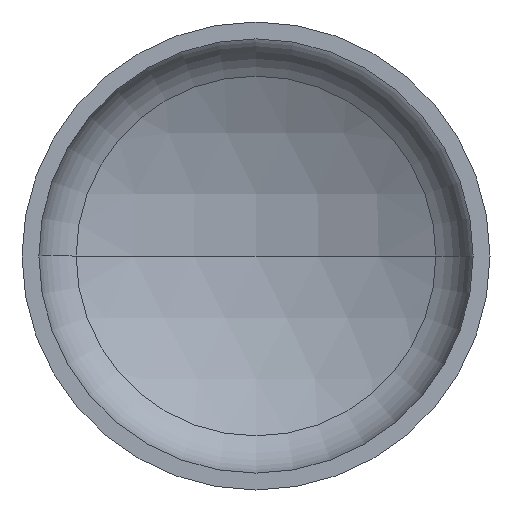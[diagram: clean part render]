
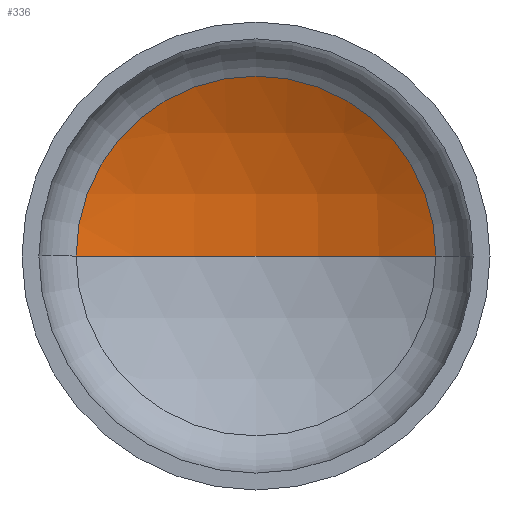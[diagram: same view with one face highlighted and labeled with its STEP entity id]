
A CAD part, front view. The second image highlights one B-rep face of the part: STEP entity #336.
In plain terms, the highlighted spherical face has radius 2400 mm.
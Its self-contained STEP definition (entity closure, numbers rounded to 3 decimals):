
#7 = AXIS2_PLACEMENT_3D ( 'NONE', #163, #395, #357 ) ;
#16 = EDGE_LOOP ( 'NONE', ( #131, #114, #58 ) ) ;
#29 = AXIS2_PLACEMENT_3D ( 'NONE', #375, #42, #31 ) ;
#31 = DIRECTION ( 'NONE',  ( 1., 0., 0. ) ) ;
#33 = VERTEX_POINT ( 'NONE', #354 ) ;
#34 = AXIS2_PLACEMENT_3D ( 'NONE', #223, #385, #244 ) ;
#36 = AXIS2_PLACEMENT_3D ( 'NONE', #212, #206, #204 ) ;
#42 = DIRECTION ( 'NONE',  ( 0., 0., 1. ) ) ;
#58 = ORIENTED_EDGE ( 'NONE', *, *, #75, .T. ) ;
#75 = EDGE_CURVE ( 'NONE', #33, #83, #188, .T. ) ;
#78 = EDGE_CURVE ( 'NONE', #127, #33, #101, .T. ) ;
#79 = EDGE_CURVE ( 'NONE', #127, #83, #306, .T. ) ;
#83 = VERTEX_POINT ( 'NONE', #186 ) ;
#101 = CIRCLE ( 'NONE', #34, 2400. ) ;
#114 = ORIENTED_EDGE ( 'NONE', *, *, #78, .T. ) ;
#127 = VERTEX_POINT ( 'NONE', #170 ) ;
#131 = ORIENTED_EDGE ( 'NONE', *, *, #79, .F. ) ;
#155 = SPHERICAL_SURFACE ( 'NONE', #7, 2400. ) ;
#163 = CARTESIAN_POINT ( 'NONE',  ( 0., -1626.463, 0. ) ) ;
#170 = CARTESIAN_POINT ( 'NONE',  ( 0., 773.537, 0. ) ) ;
#186 = CARTESIAN_POINT ( 'NONE',  ( -1152.99, 478.44, 0. ) ) ;
#188 = CIRCLE ( 'NONE', #36, 1152.99 ) ;
#204 = DIRECTION ( 'NONE',  ( 1., 0., 0. ) ) ;
#206 = DIRECTION ( 'NONE',  ( 0., -1., 0. ) ) ;
#212 = CARTESIAN_POINT ( 'NONE',  ( 0., 478.44, 0. ) ) ;
#223 = CARTESIAN_POINT ( 'NONE',  ( 0., -1626.463, 0. ) ) ;
#244 = DIRECTION ( 'NONE',  ( -1., 0., 0. ) ) ;
#306 = CIRCLE ( 'NONE', #29, 2400. ) ;
#336 = ADVANCED_FACE ( 'NONE', ( #404 ), #155, .F. ) ;
#354 = CARTESIAN_POINT ( 'NONE',  ( 1152.99, 478.44, 0. ) ) ;
#357 = DIRECTION ( 'NONE',  ( -1., 0., 0. ) ) ;
#375 = CARTESIAN_POINT ( 'NONE',  ( 0., -1626.463, 0. ) ) ;
#385 = DIRECTION ( 'NONE',  ( 0., 0., -1. ) ) ;
#395 = DIRECTION ( 'NONE',  ( 0., 0., -1. ) ) ;
#404 = FACE_OUTER_BOUND ( 'NONE', #16, .T. ) ;
